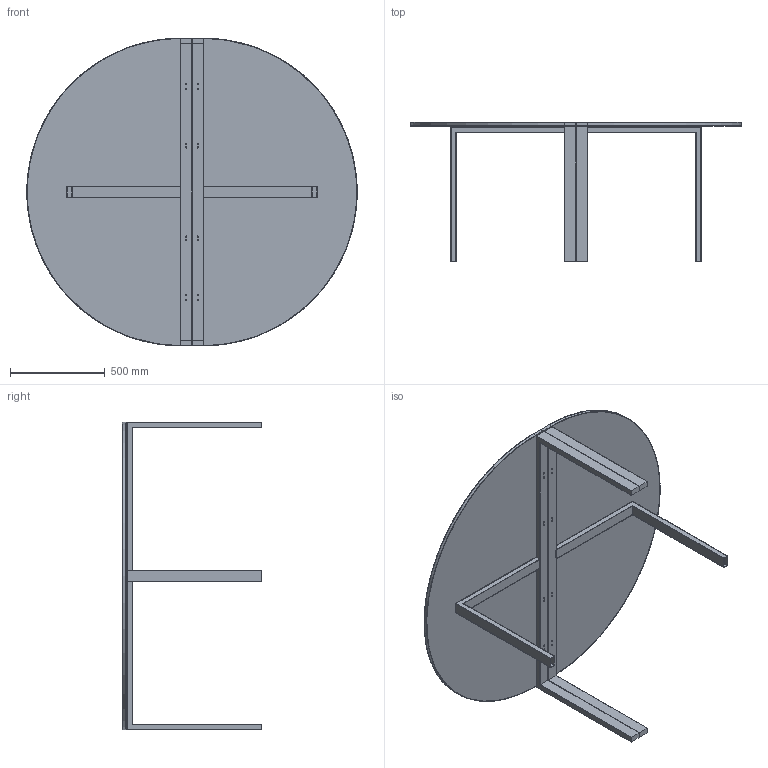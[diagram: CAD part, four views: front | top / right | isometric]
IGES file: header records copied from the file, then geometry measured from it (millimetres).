
Start section: SolidWorks IGES file using analytic representation for surfaces
Global section: file name: C:\Users\hcaixa\Documents\Gabinete Tecnico\72_produtos cliente\Timsteel\Mesas\Mesas Escritorio Operativas\Sistema Level Timsteel\AREIA-STUDIO FURNITURE CONCEPT\IGS\MESA RED REUNIOES 1620.IGS; native system: SolidWorks 2014; preprocessor: SolidWorks 2014; author: hcaixa; date: 190703.120630; units: millimetre
Bounding box: 1740 x 733 x 1620 mm (x, y, z)
Surface area: 6621578.8 mm2 (no closed solid volume)
Topology: 0 solids, 0 shells, 194 faces, 2324 edges, 2304 vertices
Faces by surface type: revolution 132, bspline 62
